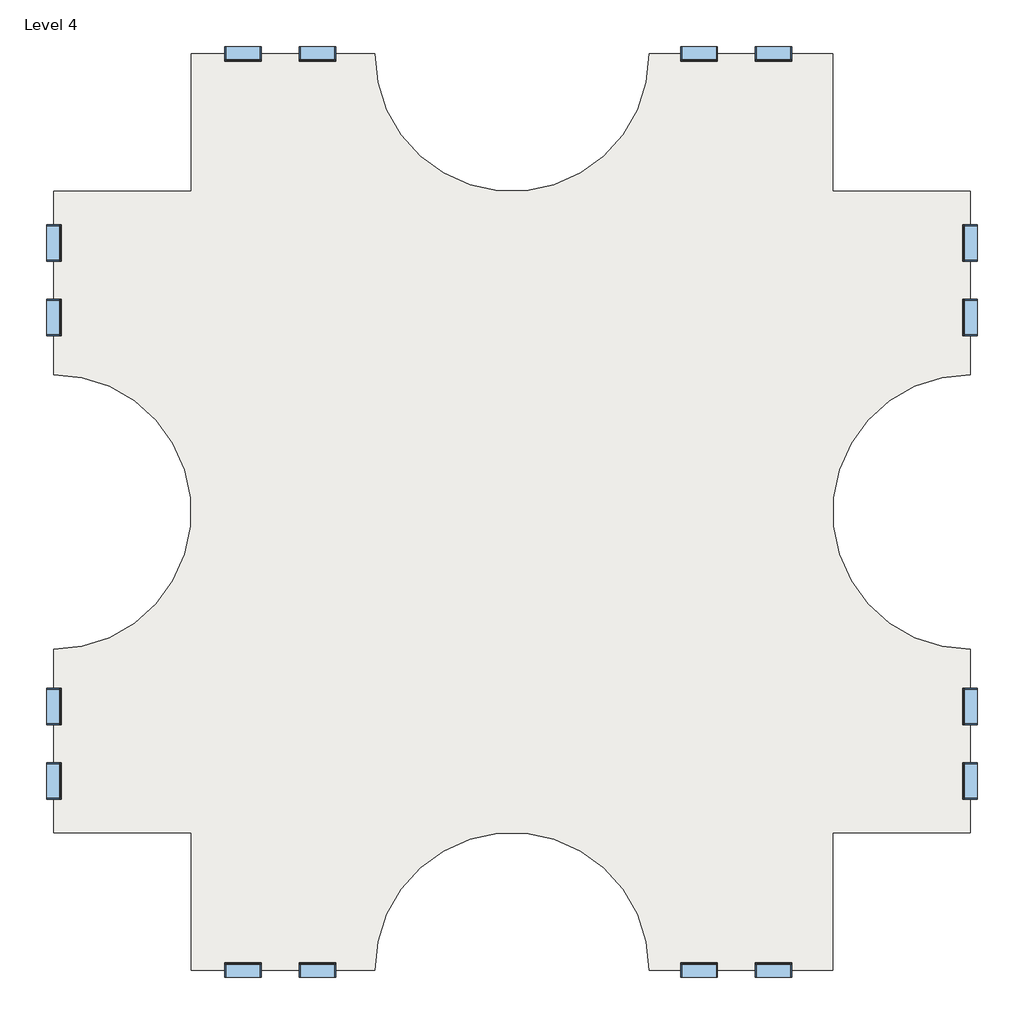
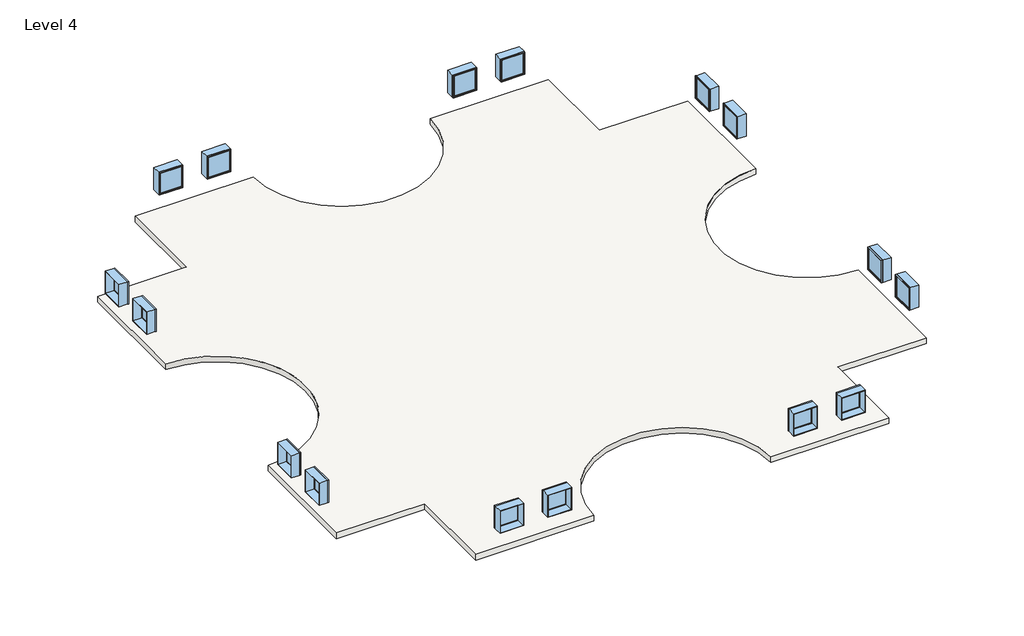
# One storey: 16 windows, 2 slabs.
"""IFC4 building model written with IfcOpenShell, lengths in millimetres."""

import ifcopenshell
import ifcopenshell.guid

model = None  # the IFC model being written
_history = None  # IfcOwnerHistory: only IFC2X3 demands one
_inside = {}  # id of a spatial element -> (the spatial element, [elements in it])
_under = {}  # id of a project, library or spatial element -> (it, [spatial elements below it])
_declared = {}  # id of a project -> (the project, [libraries it declares])
_typed = {}  # id of a type object -> (the type object, [elements of that type])
_made_of = {}  # id of a material, layer set ... -> (it, [elements and type objects made of it])


def new_model(schema):
    """Start an empty IFC model of exactly this schema.

    Asked for "IFC4X3", IfcOpenShell would pick the latest addendum, in which some entities
    have other attributes; the version numbers below select the first issue.
    IFC2X3 requires an IfcOwnerHistory on every rooted entity: one is made here for all.
    """
    global model, _history
    if schema == "IFC4X3":
        model = ifcopenshell.file(schema_version=(4, 3, 0, 0))
    else:
        model = ifcopenshell.file(schema=schema)
    _inside.clear()
    _under.clear()
    _declared.clear()
    _typed.clear()
    _made_of.clear()
    _history = None
    if model.schema == "IFC2X3":
        org = make("IfcOrganization", Name="unknown")
        user = make(
            "IfcPersonAndOrganization",
            ThePerson=make("IfcPerson", FamilyName="unknown"),
            TheOrganization=org,
        )
        app = make(
            "IfcApplication",
            ApplicationDeveloper=org,
            Version="unknown",
            ApplicationFullName="unknown",
            ApplicationIdentifier="unknown",
        )
        _history = make(
            "IfcOwnerHistory",
            OwningUser=user,
            OwningApplication=app,
            ChangeAction="ADDED",
            CreationDate=0,
        )
    return model


def make(cls, **values):
    """One entity of the class cls with the attributes given. An attribute that is None is left unset."""
    return model.create_entity(
        cls, **{name: value for name, value in values.items() if value is not None}
    )


def rooted(cls, **values):
    """An entity with a GlobalId (a new one), such as an element, a storey or a relation."""
    return make(cls, GlobalId=ifcopenshell.guid.new(), OwnerHistory=_history, **values)


def si_unit(unit_type, name, prefix=None):
    """IfcSIUnit, for example si_unit("LENGTHUNIT", "METRE", prefix="MILLI")."""
    return make("IfcSIUnit", UnitType=unit_type, Prefix=prefix, Name=name)


def assignment(units):
    """IfcUnitAssignment: the units of a project."""
    return None if units is None else make("IfcUnitAssignment", Units=units)


def point(xyz):
    """IfcCartesianPoint."""
    return None if xyz is None else make("IfcCartesianPoint", Coordinates=xyz)


def direction(xyz):
    """IfcDirection."""
    return None if xyz is None else make("IfcDirection", DirectionRatios=xyz)


def frame(location, z_axis=None, x_axis=None):
    """IfcAxis2Placement3D, a coordinate frame: its origin and axes. An axis left out is left unset."""
    return make(
        "IfcAxis2Placement3D",
        Location=point(location),
        Axis=direction(z_axis),
        RefDirection=direction(x_axis),
    )


def frame_2d(location, x_axis=None):
    """IfcAxis2Placement2D, a coordinate frame in the plane: its origin and x axis."""
    return make(
        "IfcAxis2Placement2D", Location=point(location), RefDirection=direction(x_axis)
    )


def origin():
    """The frame at (0, 0, 0) with its axes left unset."""
    return frame((0.0, 0.0, 0.0))


def place(relative_to, where):
    """IfcLocalPlacement: puts the frame where relative to a parent placement (None: the world)."""
    return make(
        "IfcLocalPlacement", PlacementRelTo=relative_to, RelativePlacement=where
    )


def context(
    kind, dimensions, precision=None, world=None, true_north=None, identifier=None
):
    """IfcGeometricRepresentationContext, for example the 3D "Model" context."""
    return make(
        "IfcGeometricRepresentationContext",
        ContextIdentifier=identifier,
        ContextType=kind,
        CoordinateSpaceDimension=dimensions,
        Precision=precision,
        WorldCoordinateSystem=world,
        TrueNorth=true_north,
    )


def project(units=None, contexts=None):
    """IfcProject with its units and contexts."""
    return rooted(
        "IfcProject",
        Name="project",
        RepresentationContexts=contexts,
        UnitsInContext=assignment(units),
    )


def spatial(cls, under=None, at=None, **own):
    """A site, building, storey or space (cls), placed at a placement, below another one or the project."""
    s = rooted(cls, ObjectPlacement=at, **own)
    if under is not None:
        _under.setdefault(under.id(), (under, []))[1].append(s)
    return s


def polyline(points):
    """IfcPolyline through the points."""
    return make("IfcPolyline", Points=[point(p) for p in points])


def circle_curve(where, radius):
    """IfcCircle in the frame where."""
    return make("IfcCircle", Position=where, Radius=radius)


def trimmed(basis, trim1, trim2, sense, master):
    """IfcTrimmedCurve: the piece of a basis curve between two trims."""
    return make(
        "IfcTrimmedCurve",
        BasisCurve=basis,
        Trim1=trim1,
        Trim2=trim2,
        SenseAgreement=sense,
        MasterRepresentation=master,
    )


def segment(curve, same_sense, transition):
    """IfcCompositeCurveSegment."""
    return make(
        "IfcCompositeCurveSegment",
        Transition=transition,
        SameSense=same_sense,
        ParentCurve=curve,
    )


def composite_curve(segments, self_intersect=None):
    """IfcCompositeCurve: segments joined end to end."""
    return make("IfcCompositeCurve", Segments=segments, SelfIntersect=self_intersect)


def outline(outer, holes=None, kind="AREA"):
    """IfcArbitraryClosedProfileDef: a profile drawn as a closed curve; with holes, ...WithVoids."""
    if holes is None:
        return make("IfcArbitraryClosedProfileDef", ProfileType=kind, OuterCurve=outer)
    return make(
        "IfcArbitraryProfileDefWithVoids",
        ProfileType=kind,
        OuterCurve=outer,
        InnerCurves=holes,
    )


def extrude(swept, where, along, depth):
    """IfcExtrudedAreaSolid: the profile swept, set in the frame where, extruded along a direction by depth."""
    return make(
        "IfcExtrudedAreaSolid",
        SweptArea=swept,
        Position=where,
        ExtrudedDirection=direction(along),
        Depth=depth,
    )


def shape(context_of_items, identifier, shape_type, items):
    """IfcShapeRepresentation: the items that make up one representation, for example the "Body"."""
    return make(
        "IfcShapeRepresentation",
        ContextOfItems=context_of_items,
        RepresentationIdentifier=identifier,
        RepresentationType=shape_type,
        Items=items,
    )


def source(mapping_origin, context_of_items, identifier, shape_type, items):
    """IfcRepresentationMap: a shape defined once, which mapped items show again and again."""
    return make(
        "IfcRepresentationMap",
        MappingOrigin=mapping_origin,
        MappedRepresentation=shape(context_of_items, identifier, shape_type, items),
    )


def transform(
    local_origin,
    x_axis=None,
    y_axis=None,
    z_axis=None,
    scale=None,
    scale2=None,
    scale3=None,
    uniform=True,
):
    """IfcCartesianTransformationOperator3D, or its non-uniform kind. x_axis, y_axis, z_axis: its Axis1, 2, 3."""
    if uniform:
        return make(
            "IfcCartesianTransformationOperator3D",
            Axis1=direction(x_axis),
            Axis2=direction(y_axis),
            LocalOrigin=point(local_origin),
            Scale=scale,
            Axis3=direction(z_axis),
        )
    return make(
        "IfcCartesianTransformationOperator3DnonUniform",
        Axis1=direction(x_axis),
        Axis2=direction(y_axis),
        LocalOrigin=point(local_origin),
        Scale=scale,
        Axis3=direction(z_axis),
        Scale2=scale2,
        Scale3=scale3,
    )


def mapped(mapping_source, mapping_target):
    """IfcMappedItem: shows the shape of a source again, moved by a transform."""
    return make(
        "IfcMappedItem", MappingSource=mapping_source, MappingTarget=mapping_target
    )


def made_of(thing, what):
    """Note that an element or type object is made of a material, layer set ...; save() writes the relation."""
    if what is not None:
        _made_of.setdefault(what.id(), (what, []))[1].append(thing)
    return thing


def element(
    cls,
    number,
    at=None,
    inside=None,
    cuts=None,
    type_object=None,
    material=None,
    context=None,
    identifier="Body",
    shape_type=None,
    held_by="IfcProductDefinitionShape",
    body=None,
    shapes=None,
    **own,
):
    """One element of the class cls, such as IfcWall. Its Tag is "e" and its number.

    at: its placement. inside: the storey or other place that contains it. cuts: it is an
    opening in that element (IfcRelVoidsElement). A single representation is given by context,
    identifier, shape_type and body (its items); several are given by shapes. held_by: the class
    of the entity that holds the representations. save() writes the other relations.
    """
    e = rooted(cls, Tag="e%d" % number, ObjectPlacement=at, **own)
    if body is not None:
        shapes = [shape(context, identifier, shape_type, body)]
    if shapes is not None:
        e.Representation = make(held_by, Representations=shapes)
    if inside is not None:
        _inside.setdefault(inside.id(), (inside, []))[1].append(e)
    if cuts is not None:
        rooted(
            "IfcRelVoidsElement", RelatingBuildingElement=cuts, RelatedOpeningElement=e
        )
    if type_object is not None:
        _typed.setdefault(type_object.id(), (type_object, []))[1].append(e)
    return made_of(e, material)


def aggregate(whole, parts):
    """IfcRelAggregates: a whole, such as a stair, and the parts it consists of."""
    return rooted("IfcRelAggregates", RelatingObject=whole, RelatedObjects=parts)


def save(model, path):
    """Write the relations noted so far, then the file.

    IfcRelAggregates (storeys below a building ...), IfcRelContainedInSpatialStructure (elements
    in a storey), IfcRelDefinesByType, IfcRelAssociatesMaterial and IfcRelDeclares: one each for
    every whole, place, type object, material and project.
    """
    for whole, parts in _under.values():
        aggregate(whole, parts)
    for where, things in _inside.values():
        rooted(
            "IfcRelContainedInSpatialStructure",
            RelatedElements=things,
            RelatingStructure=where,
        )
    for kind, things in _typed.values():
        rooted("IfcRelDefinesByType", RelatedObjects=things, RelatingType=kind)
    for what, things in _made_of.values():
        rooted("IfcRelAssociatesMaterial", RelatedObjects=things, RelatingMaterial=what)
    for by, libraries in _declared.values():
        rooted("IfcRelDeclares", RelatingContext=by, RelatedDefinitions=libraries)
    model.write(path)


def window_d0035ecf(model_context):
    return source(origin(), model_context, "Body", "SweptSolid", [
        extrude(outline(polyline([(508.0, 200.025), (-584.2, 200.025), (-584.2, 212.725), (508.0, 212.725), (508.0, 200.025)])), frame((0.0, 0.0, 977.9), z_axis=(0.0, 0.0, 1.0), x_axis=(1.0, 0.0, 0.0)), (0.0, 0.0, 1.0), 1092.2),
        extrude(outline(polyline([(2114.55, -628.65), (933.45, -628.65), (933.45, 552.45), (2114.55, 552.45), (2114.55, -628.65)]), holes=[polyline([(2070.1, -584.2), (2070.1, 508.0), (977.9, 508.0), (977.9, -584.2), (2070.1, -584.2)])]), frame((0.0, 184.15, 0.0), z_axis=(0.0, 1.0, 0.0), x_axis=(0.0, 0.0, 1.0)), (0.0, 0.0, 1.0), 44.45),
        extrude(outline(polyline([(2133.6, -647.7), (914.4, -647.7), (914.4, 571.5), (2133.6, 571.5), (2133.6, -647.7)]), holes=[polyline([(2101.85, -615.95), (2101.85, 539.75), (946.15, 539.75), (946.15, -615.95), (2101.85, -615.95)])]), frame((0.0, -247.65, 0.0), z_axis=(0.0, 1.0, 0.0), x_axis=(0.0, 0.0, 1.0)), (0.0, 0.0, 1.0), 431.8),
        extrude(outline(polyline([(2133.6, 571.5), (2133.6, -647.7), (914.4, -647.7), (914.4, 571.5), (2133.6, 571.5)]), holes=[polyline([(2114.55, 552.45), (933.45, 552.45), (933.45, -628.65), (2114.55, -628.65), (2114.55, 552.45)])]), frame((0.0, 184.15, 0.0), z_axis=(0.0, 1.0, 0.0), x_axis=(0.0, 0.0, 1.0)), (0.0, 0.0, 1.0), 63.5),
    ])


def window_d434eb62(model_context):
    return source(origin(), model_context, "Body", "SweptSolid", [
        extrude(outline(polyline([(508.0, -200.025), (508.0, -212.725), (-584.2, -212.725), (-584.2, -200.025), (508.0, -200.025)])), frame((0.0, 0.0, 977.9), z_axis=(0.0, 0.0, 1.0), x_axis=(1.0, 0.0, 0.0)), (0.0, 0.0, 1.0), 1092.2),
        extrude(outline(polyline([(2114.55, -628.65), (933.45, -628.65), (933.45, 552.45), (2114.55, 552.45), (2114.55, -628.65)]), holes=[polyline([(2070.1, -584.2), (2070.1, 508.0), (977.9, 508.0), (977.9, -584.2), (2070.1, -584.2)])]), frame((0.0, -228.6, 0.0), z_axis=(0.0, 1.0, 0.0), x_axis=(0.0, 0.0, 1.0)), (0.0, 0.0, 1.0), 44.45),
        extrude(outline(polyline([(2133.6, -647.7), (914.4, -647.7), (914.4, 571.5), (2133.6, 571.5), (2133.6, -647.7)]), holes=[polyline([(2101.85, -615.95), (2101.85, 539.75), (946.15, 539.75), (946.15, -615.95), (2101.85, -615.95)])]), frame((0.0, -184.15, 0.0), z_axis=(0.0, 1.0, 0.0), x_axis=(0.0, 0.0, 1.0)), (0.0, 0.0, 1.0), 431.8),
        extrude(outline(polyline([(2133.6, 571.5), (2133.6, -647.7), (914.4, -647.7), (914.4, 571.5), (2133.6, 571.5)]), holes=[polyline([(2114.55, 552.45), (933.45, 552.45), (933.45, -628.65), (2114.55, -628.65), (2114.55, 552.45)])]), frame((0.0, -247.65, 0.0), z_axis=(0.0, 1.0, 0.0), x_axis=(0.0, 0.0, 1.0)), (0.0, 0.0, 1.0), 63.5),
    ])


model = new_model("IFC4")

# Units and contexts
model_context = context("Model", 3, world=origin())
ifc_project = project(units=[si_unit("LENGTHUNIT", "METRE", prefix="MILLI")], contexts=[model_context])

# Site, building, storey
site = spatial("IfcSite", under=ifc_project)
building = spatial("IfcBuilding", under=site)
storey = spatial("IfcBuildingStorey", under=building, Name="Level 4", Elevation=9144.0)

# Slabs
placement = place(None, origin())
element("IfcSlab", 1, ObjectType="Generic - 12\"", at=placement, inside=storey, context=model_context, shape_type="SweptSolid", body=[
    extrude(outline(composite_curve([segment(polyline([(-7150.3629456, 4479.6634547), (-7150.3629456, 9051.6634547), (-1054.3629456, 9051.6634547)]), True, "CONTINUOUS"), segment(trimmed(circle_curve(frame_2d((3517.6370544, 9051.6634547)), 4572.0), [point((-1054.3629456, 9051.6634547))], [point((8089.6370544, 9051.6634547))], True, "CARTESIAN"), True, "CONTINUOUS"), segment(polyline([(8089.6370544, 9051.6634547), (14185.6370544, 9051.6634547), (14185.6370544, 4479.6634547), (18757.6370544, 4479.6634547), (18757.6370544, -1616.3365453)]), True, "CONTINUOUS"), segment(trimmed(circle_curve(frame_2d((18757.6370544, -6188.3365453)), 4572.0), [point((18757.6370544, -1616.3365453))], [point((18757.6370544, -10760.3365453))], True, "CARTESIAN"), True, "CONTINUOUS"), segment(polyline([(18757.6370544, -10760.3365453), (18757.6370544, -16856.3365453), (14185.6370544, -16856.3365453), (14185.6370544, -21428.3365453), (8089.6370544, -21428.3365453)]), True, "CONTINUOUS"), segment(trimmed(circle_curve(frame_2d((3517.6370544, -21428.3365453)), 4572.0), [point((8089.6370544, -21428.3365453))], [point((-1054.3629456, -21428.3365453))], True, "CARTESIAN"), True, "CONTINUOUS"), segment(polyline([(-1054.3629456, -21428.3365453), (-7150.3629456, -21428.3365453), (-7150.3629456, -16856.3365453), (-11722.3629456, -16856.3365453), (-11722.3629456, -10760.3365453)]), True, "CONTINUOUS"), segment(trimmed(circle_curve(frame_2d((-11722.3629456, -6188.3365453)), 4572.0), [point((-11722.3629456, -10760.3365453))], [point((-11722.3629456, -1616.3365453))], True, "CARTESIAN"), True, "CONTINUOUS"), segment(polyline([(-11722.3629456, -1616.3365453), (-11722.3629456, 4479.6634547), (-7150.3629456, 4479.6634547)]), True, "CONTINUOUS")], self_intersect=False)), frame((0.0, 0.0, 8839.2), z_axis=(0.0, 0.0, 1.0), x_axis=(1.0, 0.0, 0.0)), (0.0, 0.0, 1.0), 304.8),
])
element("IfcSlab", 2, ObjectType="Generic - 12\"", at=placement, inside=storey, context=model_context, shape_type="SweptSolid", body=[
    extrude(outline(composite_curve([segment(polyline([(-7150.3629456, 4479.6634547), (-7150.3629456, 9051.6634547), (-1054.3629456, 9051.6634547)]), True, "CONTINUOUS"), segment(trimmed(circle_curve(frame_2d((3517.6370544, 9051.6634547)), 4572.0), [point((-1054.3629456, 9051.6634547))], [point((8089.6370544, 9051.6634547))], True, "CARTESIAN"), True, "CONTINUOUS"), segment(polyline([(8089.6370544, 9051.6634547), (14185.6370544, 9051.6634547), (14185.6370544, 4479.6634547), (18757.6370544, 4479.6634547), (18757.6370544, -1616.3365453)]), True, "CONTINUOUS"), segment(trimmed(circle_curve(frame_2d((18757.6370544, -6188.3365453)), 4572.0), [point((18757.6370544, -1616.3365453))], [point((18757.6370544, -10760.3365453))], True, "CARTESIAN"), True, "CONTINUOUS"), segment(polyline([(18757.6370544, -10760.3365453), (18757.6370544, -16856.3365453), (14185.6370544, -16856.3365453), (14185.6370544, -21428.3365453), (8089.6370544, -21428.3365453)]), True, "CONTINUOUS"), segment(trimmed(circle_curve(frame_2d((3517.6370544, -21428.3365453)), 4572.0), [point((8089.6370544, -21428.3365453))], [point((-1054.3629456, -21428.3365453))], True, "CARTESIAN"), True, "CONTINUOUS"), segment(polyline([(-1054.3629456, -21428.3365453), (-7150.3629456, -21428.3365453), (-7150.3629456, -16856.3365453), (-11722.3629456, -16856.3365453), (-11722.3629456, -10760.3365453)]), True, "CONTINUOUS"), segment(trimmed(circle_curve(frame_2d((-11722.3629456, -6188.3365453)), 4572.0), [point((-11722.3629456, -10760.3365453))], [point((-11722.3629456, -1616.3365453))], True, "CARTESIAN"), True, "CONTINUOUS"), segment(polyline([(-11722.3629456, -1616.3365453), (-11722.3629456, 4479.6634547), (-7150.3629456, 4479.6634547)]), True, "CONTINUOUS")], self_intersect=False)), frame((0.0, 0.0, 8839.2), z_axis=(0.0, 0.0, 1.0), x_axis=(1.0, 0.0, 0.0)), (0.0, 0.0, 1.0), 304.8),
])

# Windows
window_shape = window_d0035ecf(model_context)
element("IfcWindow", 3, ObjectType="Fixed : 48\" x 48\"", at=placement, inside=storey, context=model_context, shape_type="MappedRepresentation", body=[
    mapped(window_shape, transform((-11719.1879456, 247.3884547, 9144.0), x_axis=(0.0, -1.0, 0.0), y_axis=(1.0, 0.0, 0.0), z_axis=(0.0, 0.0, 1.0))),
])
element("IfcWindow", 4, ObjectType="Fixed : 48\" x 48\"", at=placement, inside=storey, context=model_context, shape_type="MappedRepresentation", body=[
    mapped(window_shape, transform((-5469.1993281, 9048.4884547, 9144.0), x_axis=(-1.0, 0.0, 0.0), y_axis=(0.0, -1.0, 0.0), z_axis=(0.0, 0.0, 1.0))),
])
element("IfcWindow", 5, ObjectType="Fixed : 48\" x 48\"", at=placement, inside=storey, context=model_context, shape_type="MappedRepresentation", body=[
    mapped(window_shape, transform((-11719.1879456, -15175.1729277, 9144.0), x_axis=(0.0, -1.0, 0.0), y_axis=(1.0, 0.0, 0.0), z_axis=(0.0, 0.0, 1.0))),
])
element("IfcWindow", 6, ObjectType="Fixed : 48\" x 48\"", at=placement, inside=storey, context=model_context, shape_type="MappedRepresentation", body=[
    mapped(window_shape, transform((-2918.0879456, -21425.1615453, 9144.0), x_axis=(1.0, 0.0, 0.0), y_axis=(0.0, 1.0, 0.0), z_axis=(0.0, 0.0, 1.0))),
])
element("IfcWindow", 7, ObjectType="Fixed : 48\" x 48\"", at=placement, inside=storey, context=model_context, shape_type="MappedRepresentation", body=[
    mapped(window_shape, transform((18754.4620544, 2798.4998372, 9144.0), x_axis=(0.0, 1.0, 0.0), y_axis=(-1.0, 0.0, 0.0), z_axis=(0.0, 0.0, 1.0))),
])
element("IfcWindow", 8, ObjectType="Fixed : 48\" x 48\"", at=placement, inside=storey, context=model_context, shape_type="MappedRepresentation", body=[
    mapped(window_shape, transform((9705.7120544, 9048.4884547, 9144.0), x_axis=(-1.0, 0.0, 0.0), y_axis=(0.0, -1.0, 0.0), z_axis=(0.0, 0.0, 1.0))),
])
element("IfcWindow", 9, ObjectType="Fixed : 48\" x 48\"", at=placement, inside=storey, context=model_context, shape_type="MappedRepresentation", body=[
    mapped(window_shape, transform((18754.4620544, -12624.0615453, 9144.0), x_axis=(0.0, 1.0, 0.0), y_axis=(-1.0, 0.0, 0.0), z_axis=(0.0, 0.0, 1.0))),
])
element("IfcWindow", 10, ObjectType="Fixed : 48\" x 48\"", at=placement, inside=storey, context=model_context, shape_type="MappedRepresentation", body=[
    mapped(window_shape, transform((12256.8234368, -21425.1615453, 9144.0), x_axis=(1.0, 0.0, 0.0), y_axis=(0.0, 1.0, 0.0), z_axis=(0.0, 0.0, 1.0))),
])
window_2_shape = window_d434eb62(model_context)
element("IfcWindow", 11, ObjectType="Fixed : 48\" x 48\"", at=placement, inside=storey, context=model_context, shape_type="MappedRepresentation", body=[
    mapped(window_2_shape, transform((-11719.1879456, 2798.4998372, 9144.0), x_axis=(0.0, 1.0, 0.0), y_axis=(-1.0, 0.0, 0.0), z_axis=(0.0, 0.0, 1.0))),
])
element("IfcWindow", 12, ObjectType="Fixed : 48\" x 48\"", at=placement, inside=storey, context=model_context, shape_type="MappedRepresentation", body=[
    mapped(window_2_shape, transform((-2918.0879456, 9048.4884547, 9144.0), x_axis=(1.0, 0.0, 0.0), y_axis=(0.0, 1.0, 0.0), z_axis=(0.0, 0.0, 1.0))),
])
element("IfcWindow", 13, ObjectType="Fixed : 48\" x 48\"", at=placement, inside=storey, context=model_context, shape_type="MappedRepresentation", body=[
    mapped(window_2_shape, transform((-11719.1879456, -12624.0615453, 9144.0), x_axis=(0.0, 1.0, 0.0), y_axis=(-1.0, 0.0, 0.0), z_axis=(0.0, 0.0, 1.0))),
])
element("IfcWindow", 14, ObjectType="Fixed : 48\" x 48\"", at=placement, inside=storey, context=model_context, shape_type="MappedRepresentation", body=[
    mapped(window_2_shape, transform((-5469.1993281, -21425.1615453, 9144.0), x_axis=(-1.0, 0.0, 0.0), y_axis=(0.0, -1.0, 0.0), z_axis=(0.0, 0.0, 1.0))),
])
element("IfcWindow", 15, ObjectType="Fixed : 48\" x 48\"", at=placement, inside=storey, context=model_context, shape_type="MappedRepresentation", body=[
    mapped(window_2_shape, transform((18754.4620544, 247.3884547, 9144.0), x_axis=(0.0, -1.0, 0.0), y_axis=(1.0, 0.0, 0.0), z_axis=(0.0, 0.0, 1.0))),
])
element("IfcWindow", 16, ObjectType="Fixed : 48\" x 48\"", at=placement, inside=storey, context=model_context, shape_type="MappedRepresentation", body=[
    mapped(window_2_shape, transform((12256.8234368, 9048.4884547, 9144.0), x_axis=(1.0, 0.0, 0.0), y_axis=(0.0, 1.0, 0.0), z_axis=(0.0, 0.0, 1.0))),
])
element("IfcWindow", 17, ObjectType="Fixed : 48\" x 48\"", at=placement, inside=storey, context=model_context, shape_type="MappedRepresentation", body=[
    mapped(window_2_shape, transform((18754.4620544, -15175.1729277, 9144.0), x_axis=(0.0, -1.0, 0.0), y_axis=(1.0, 0.0, 0.0), z_axis=(0.0, 0.0, 1.0))),
])
element("IfcWindow", 18, ObjectType="Fixed : 48\" x 48\"", at=placement, inside=storey, context=model_context, shape_type="MappedRepresentation", body=[
    mapped(window_2_shape, transform((9705.7120544, -21425.1615453, 9144.0), x_axis=(-1.0, 0.0, 0.0), y_axis=(0.0, -1.0, 0.0), z_axis=(0.0, 0.0, 1.0))),
])

save(model, "model.ifc")
